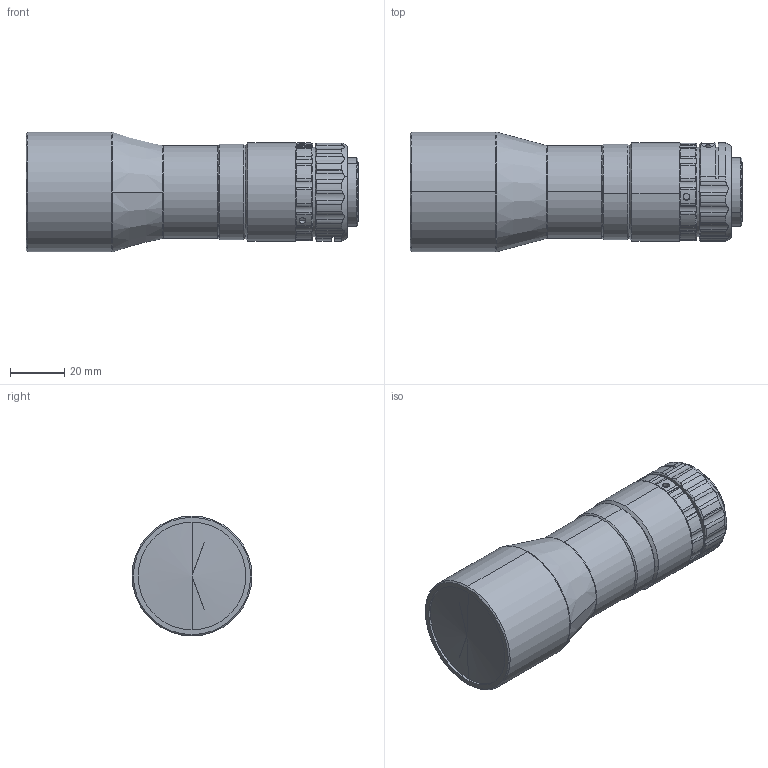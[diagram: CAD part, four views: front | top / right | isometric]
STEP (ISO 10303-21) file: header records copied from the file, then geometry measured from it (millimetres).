
FILE_DESCRIPTION (( 'STEP AP203' ), '1' );
FILE_NAME ('DTCM230-26-AL.STEP', '2024-08-01T09:31:55', ( '' ), ( '' ), 'SwSTEP 2.0', 'SolidWorks 2017', '' );
FILE_SCHEMA (( 'CONFIG_CONTROL_DESIGN' ));
Length unit declared in the file: millimetre
Products named in the file (1): DTCM230-26-AL
Bounding box: 121.86 x 44 x 44 mm (x, y, z)
Volume: 137081.4 mm3; surface area: 17865 mm2
Topology: 1 solids, 1 shells, 201 faces, 540 edges, 345 vertices
Faces by surface type: cylinder 120, cone 58, plane 19, bspline 4
Entity records: 7084 total; most frequent: CARTESIAN_POINT 2214, ORIENTED_EDGE 1068, DIRECTION 937, EDGE_CURVE 534, AXIS2_PLACEMENT_3D 386, VERTEX_POINT 345, EDGE_LOOP 213, ADVANCED_FACE 201
